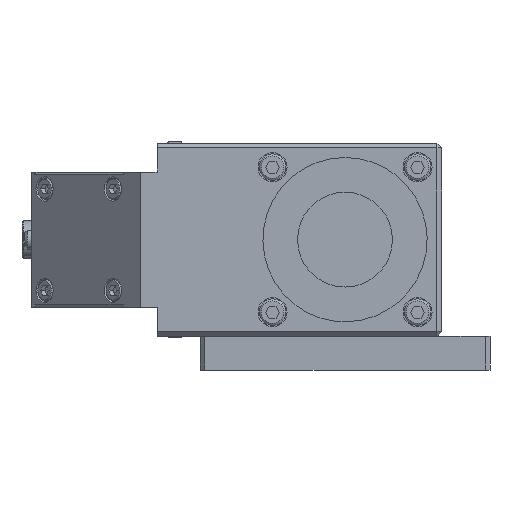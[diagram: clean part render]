
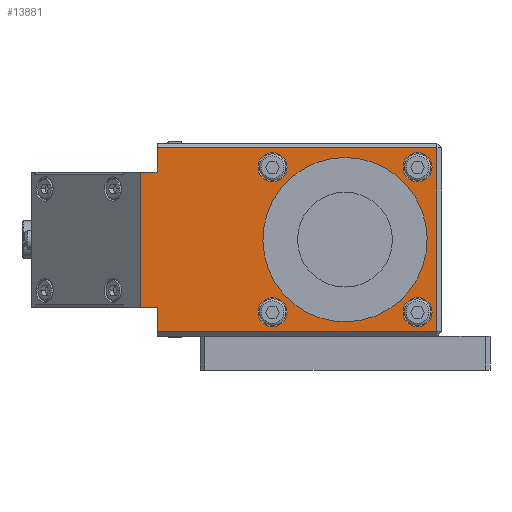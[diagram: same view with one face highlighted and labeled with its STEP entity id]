
A CAD part, front view. The second image highlights one B-rep face of the part: STEP entity #13881.
In plain terms, the highlighted planar face has unit normal (0, -1, 0).
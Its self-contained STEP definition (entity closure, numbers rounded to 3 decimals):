
#12709=CARTESIAN_POINT('',(-15.,3.,-12.));
#12710=VERTEX_POINT('',#12709);
#12711=CARTESIAN_POINT('',(-15.,3.,-15.));
#12712=DIRECTION('',(0.,1.,0.));
#12713=DIRECTION('',(0.,0.,1.));
#12714=AXIS2_PLACEMENT_3D('',#12711,#12712,#12713);
#12715=CIRCLE('',#12714,3.);
#12716=EDGE_CURVE('',#12710,#12710,#12715,.T.);
#12734=CARTESIAN_POINT('',(15.,3.,-12.));
#12735=VERTEX_POINT('',#12734);
#12736=CARTESIAN_POINT('',(15.,3.,-15.));
#12737=DIRECTION('',(0.,1.,0.));
#12738=DIRECTION('',(0.,0.,1.));
#12739=AXIS2_PLACEMENT_3D('',#12736,#12737,#12738);
#12740=CIRCLE('',#12739,3.);
#12741=EDGE_CURVE('',#12735,#12735,#12740,.T.);
#12759=CARTESIAN_POINT('',(15.,3.,18.));
#12760=VERTEX_POINT('',#12759);
#12761=CARTESIAN_POINT('',(15.,3.,15.));
#12762=DIRECTION('',(0.,1.,0.));
#12763=DIRECTION('',(0.,0.,1.));
#12764=AXIS2_PLACEMENT_3D('',#12761,#12762,#12763);
#12765=CIRCLE('',#12764,3.);
#12766=EDGE_CURVE('',#12760,#12760,#12765,.T.);
#12784=CARTESIAN_POINT('',(-15.,3.,18.));
#12785=VERTEX_POINT('',#12784);
#12786=CARTESIAN_POINT('',(-15.,3.,15.));
#12787=DIRECTION('',(0.,1.,0.));
#12788=DIRECTION('',(0.,0.,1.));
#12789=AXIS2_PLACEMENT_3D('',#12786,#12787,#12788);
#12790=CIRCLE('',#12789,3.);
#12791=EDGE_CURVE('',#12785,#12785,#12790,.T.);
#12809=CARTESIAN_POINT('',(12.647,3.,0.));
#12810=VERTEX_POINT('',#12809);
#12811=CARTESIAN_POINT('',(0.,3.,0.));
#12812=DIRECTION('',(0.,1.,0.));
#12813=DIRECTION('',(-1.,0.,0.));
#12814=AXIS2_PLACEMENT_3D('',#12811,#12812,#12813);
#12815=CIRCLE('',#12814,12.647);
#12816=EDGE_CURVE('',#12810,#12810,#12815,.T.);
#12834=CARTESIAN_POINT('',(19.,3.,-19.));
#12835=VERTEX_POINT('',#12834);
#12836=CARTESIAN_POINT('',(-38.9,3.,-19.));
#12837=VERTEX_POINT('',#12836);
#12838=CARTESIAN_POINT('',(-0.5,3.,-19.));
#12839=DIRECTION('',(-1.,0.,0.));
#12840=VECTOR('',#12839,1.);
#12841=LINE('',#12838,#12840);
#12842=EDGE_CURVE('',#12835,#12837,#12841,.T.);
#12874=CARTESIAN_POINT('',(-38.9,3.,-14.));
#12875=VERTEX_POINT('',#12874);
#12876=CARTESIAN_POINT('',(-38.9,3.,19.));
#12877=DIRECTION('',(0.,0.,-1.));
#12878=VECTOR('',#12877,1.);
#12879=LINE('',#12876,#12878);
#12880=EDGE_CURVE('',#12875,#12837,#12879,.T.);
#12926=CARTESIAN_POINT('',(-42.325,3.,-14.));
#12927=VERTEX_POINT('',#12926);
#12928=CARTESIAN_POINT('',(-28.9,3.,-14.));
#12929=DIRECTION('',(-1.,0.,0.));
#12930=VECTOR('',#12929,1.);
#12931=LINE('',#12928,#12930);
#12932=EDGE_CURVE('',#12875,#12927,#12931,.T.);
#12962=CARTESIAN_POINT('',(-42.325,3.,14.));
#12963=VERTEX_POINT('',#12962);
#12985=CARTESIAN_POINT('',(-42.325,3.,-14.));
#12986=DIRECTION('',(0.,0.,1.));
#12987=VECTOR('',#12986,1.);
#12988=LINE('',#12985,#12987);
#12989=EDGE_CURVE('',#12927,#12963,#12988,.T.);
#13020=CARTESIAN_POINT('',(-38.9,3.,14.));
#13021=VERTEX_POINT('',#13020);
#13022=CARTESIAN_POINT('',(-28.9,3.,14.));
#13023=DIRECTION('',(-1.,0.,0.));
#13024=VECTOR('',#13023,1.);
#13025=LINE('',#13022,#13024);
#13026=EDGE_CURVE('',#13021,#12963,#13025,.T.);
#13055=CARTESIAN_POINT('',(-38.9,3.,19.));
#13056=VERTEX_POINT('',#13055);
#13063=CARTESIAN_POINT('',(19.,3.,19.));
#13064=VERTEX_POINT('',#13063);
#13065=CARTESIAN_POINT('',(-0.5,3.,19.));
#13066=DIRECTION('',(1.,0.,0.));
#13067=VECTOR('',#13066,1.);
#13068=LINE('',#13065,#13067);
#13069=EDGE_CURVE('',#13056,#13064,#13068,.T.);
#13291=CARTESIAN_POINT('',(-38.9,3.,19.));
#13292=DIRECTION('',(0.,0.,-1.));
#13293=VECTOR('',#13292,1.);
#13294=LINE('',#13291,#13293);
#13295=EDGE_CURVE('',#13056,#13021,#13294,.T.);
#13846=ORIENTED_EDGE('',*,*,#13069,.F.);
#13847=ORIENTED_EDGE('',*,*,#13295,.T.);
#13848=ORIENTED_EDGE('',*,*,#13026,.T.);
#13849=ORIENTED_EDGE('',*,*,#12989,.F.);
#13850=ORIENTED_EDGE('',*,*,#12932,.F.);
#13851=ORIENTED_EDGE('',*,*,#12880,.T.);
#13852=ORIENTED_EDGE('',*,*,#12842,.F.);
#13853=CARTESIAN_POINT('',(19.,3.,-10.));
#13854=DIRECTION('',(0.,0.,-1.));
#13855=VECTOR('',#13854,1.);
#13856=LINE('',#13853,#13855);
#13857=EDGE_CURVE('',#13064,#12835,#13856,.T.);
#13858=ORIENTED_EDGE('',*,*,#13857,.F.);
#13859=EDGE_LOOP('',(#13846,#13847,#13848,#13849,#13850,#13851,#13852,#13858));
#13860=FACE_OUTER_BOUND('',#13859,.T.);
#13861=ORIENTED_EDGE('',*,*,#12816,.T.);
#13862=EDGE_LOOP('',(#13861));
#13863=FACE_BOUND('',#13862,.T.);
#13864=ORIENTED_EDGE('',*,*,#12791,.T.);
#13865=EDGE_LOOP('',(#13864));
#13866=FACE_BOUND('',#13865,.T.);
#13867=ORIENTED_EDGE('',*,*,#12766,.T.);
#13868=EDGE_LOOP('',(#13867));
#13869=FACE_BOUND('',#13868,.T.);
#13870=ORIENTED_EDGE('',*,*,#12741,.T.);
#13871=EDGE_LOOP('',(#13870));
#13872=FACE_BOUND('',#13871,.T.);
#13873=ORIENTED_EDGE('',*,*,#12716,.T.);
#13874=EDGE_LOOP('',(#13873));
#13875=FACE_BOUND('',#13874,.T.);
#13876=CARTESIAN_POINT('',(-0.5,3.,-20.));
#13877=DIRECTION('',(0.,-1.,0.));
#13878=DIRECTION('',(-1.,0.,0.));
#13879=AXIS2_PLACEMENT_3D('',#13876,#13877,#13878);
#13880=PLANE('',#13879);
#13881=ADVANCED_FACE('',(#13860,#13863,#13866,#13869,#13872,#13875),#13880,.T.);
